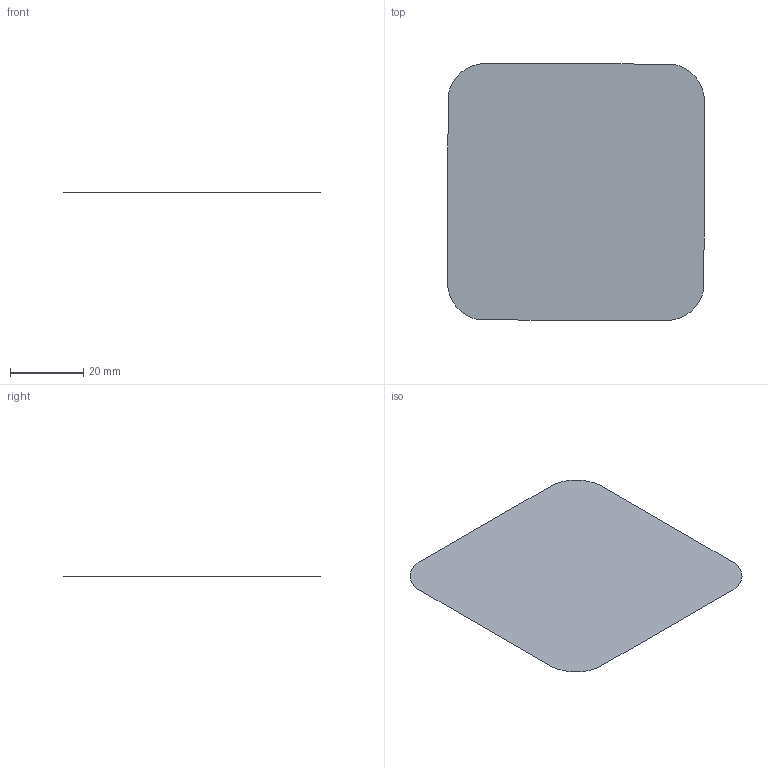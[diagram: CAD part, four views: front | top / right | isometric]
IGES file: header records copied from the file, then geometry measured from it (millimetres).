
Global section: file name: Filename.iges; native system: Open CASCADE 7.9; preprocessor: Open CASCADE IGES processor 7.9; author: HAKAN KARATEKE; date: 20261015.195651; units: millimetre
Bounding box: 70 x 70 x 0 mm (x, y, z)
Surface area: 4811.2 mm2 (no closed solid volume)
Topology: 0 solids, 0 shells, 1 faces, 12 edges, 12 vertices
Faces by surface type: plane 1
